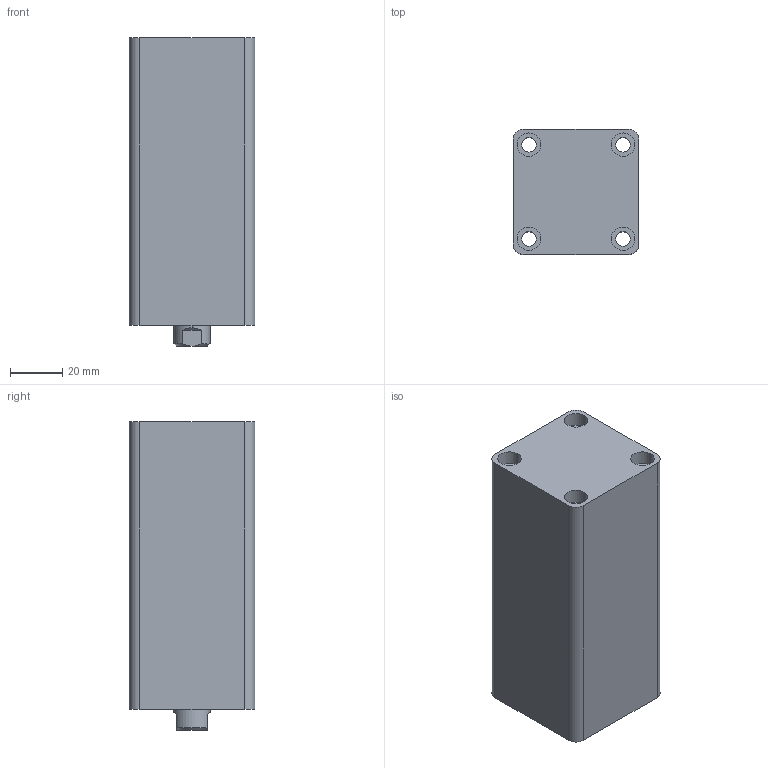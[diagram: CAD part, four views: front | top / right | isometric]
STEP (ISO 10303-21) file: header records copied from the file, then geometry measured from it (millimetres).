
FILE_DESCRIPTION (( 'STEP AP203' ), '1' );
FILE_NAME ('HTB-SD25-65N.STEP', '2019-10-07T06:15:34', ( '微软用户' ), ( '微软中国' ), 'SwSTEP 2.0', 'SolidWorks 2012', '' );
FILE_SCHEMA (( 'CONFIG_CONTROL_DESIGN' ));
Length unit declared in the file: millimetre
Products named in the file (3): HTB-SD25-65掛极; HTB-SD25-65N活塞杆; HTB-SD25-65N
Assembly tree (2 placements, depth 2):
  HTB-SD25-65N
    HTB-SD25-65掛极
    HTB-SD25-65N活塞杆
Bounding box: 48 x 48 x 118 mm (x, y, z)
Volume: 216726.7 mm3; surface area: 48020.5 mm2
Topology: 2 solids, 2 shells, 83 faces, 182 edges, 117 vertices
Faces by surface type: cylinder 42, plane 27, cone 8, torus 6
Entity records: 2653 total; most frequent: DIRECTION 454, CARTESIAN_POINT 429, ORIENTED_EDGE 360, AXIS2_PLACEMENT_3D 194, EDGE_CURVE 180, VERTEX_POINT 117, EDGE_LOOP 107, CIRCLE 106
